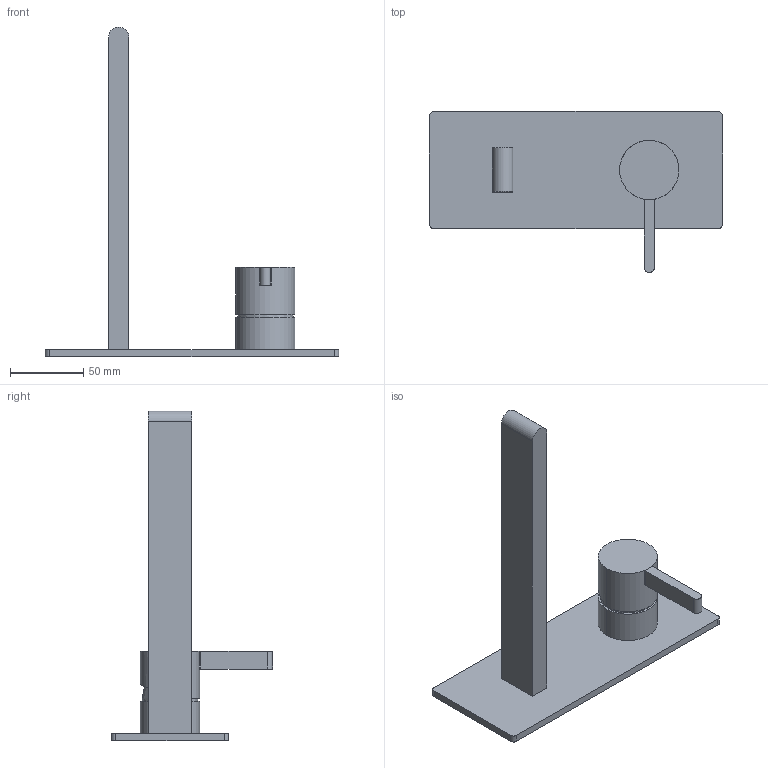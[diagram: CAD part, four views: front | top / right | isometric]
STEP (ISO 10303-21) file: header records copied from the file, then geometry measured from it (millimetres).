
FILE_DESCRIPTION(('FreeCAD Model'),'2;1');
FILE_NAME('Open CASCADE Shape Model','2024-07-23T11:44:21',('Author'),( ''),'Open CASCADE STEP processor 7.6','FreeCAD','Unknown');
FILE_SCHEMA(('AUTOMOTIVE_DESIGN { 1 0 10303 214 1 1 1 1 }'));
Length unit declared in the file: millimetre
Products named in the file (6): TopLevelAssembly; Wyciąganie001; Wyciąganie002; Połączona geometria bryłowa; Połączona geometria bryłowa002; Połączona geometria bryłowa003
Assembly tree (5 placements, depth 2):
  TopLevelAssembly
    Wyciąganie001
    Wyciąganie002
    Połączona geometria bryłowa
    Połączona geometria bryłowa002
    Połączona geometria bryłowa003
Bounding box: 200 x 110 x 225 mm (x, y, z)
Volume: 259464.7 mm3; surface area: 69866.5 mm2
Topology: 5 solids, 5 shells, 35 faces, 73 edges, 47 vertices
Faces by surface type: plane 20, cylinder 13, bspline 2
Entity records: 1111 total; most frequent: CARTESIAN_POINT 207, DIRECTION 179, ORIENTED_EDGE 142, EDGE_CURVE 71, AXIS2_PLACEMENT_3D 69, VERTEX_POINT 47, LINE 41, VECTOR 41
